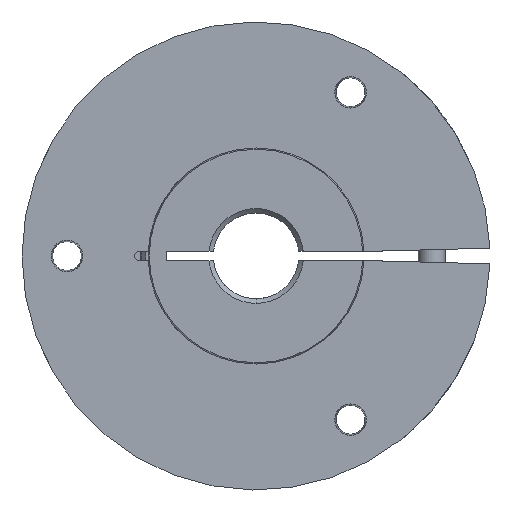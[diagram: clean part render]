
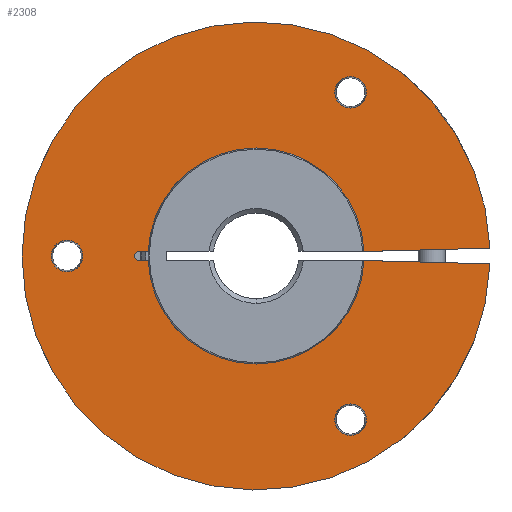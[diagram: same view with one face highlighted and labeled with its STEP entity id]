
A CAD part, front view. The second image highlights one B-rep face of the part: STEP entity #2308.
In plain terms, the highlighted planar face has unit normal (0, -1, 0).
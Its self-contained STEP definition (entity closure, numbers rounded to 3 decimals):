
#39 = CIRCLE ( 'NONE', #2867, 1.748 ) ;
#66 = ORIENTED_EDGE ( 'NONE', *, *, #2490, .T. ) ;
#74 = CIRCLE ( 'NONE', #2934, 1.748 ) ;
#80 = AXIS2_PLACEMENT_3D ( 'NONE', #1555, #1478, #1416 ) ;
#114 = AXIS2_PLACEMENT_3D ( 'NONE', #1853, #1842, #1800 ) ;
#119 = EDGE_LOOP ( 'NONE', ( #1612, #555, #1231, #1965, #66, #1447, #2392, #2577 ) ) ;
#187 = DIRECTION ( 'NONE',  ( 0., 0., -1. ) ) ;
#192 = DIRECTION ( 'NONE',  ( 0., 1., 0. ) ) ;
#195 = CARTESIAN_POINT ( 'NONE',  ( -21., 0., 0. ) ) ;
#206 = CARTESIAN_POINT ( 'NONE',  ( 10.5, 0., 16.438 ) ) ;
#247 = DIRECTION ( 'NONE',  ( 0., 0., -1. ) ) ;
#282 = ORIENTED_EDGE ( 'NONE', *, *, #2686, .T. ) ;
#289 = DIRECTION ( 'NONE',  ( 0., -1., 0. ) ) ;
#316 = AXIS2_PLACEMENT_3D ( 'NONE', #366, #289, #247 ) ;
#346 = DIRECTION ( 'NONE',  ( -1., 0., 0. ) ) ;
#359 = ORIENTED_EDGE ( 'NONE', *, *, #2452, .T. ) ;
#366 = CARTESIAN_POINT ( 'NONE',  ( 12., 0., 0. ) ) ;
#419 = DIRECTION ( 'NONE',  ( 0., 0., -1. ) ) ;
#428 = DIRECTION ( 'NONE',  ( 0., 1., 0. ) ) ;
#443 = CARTESIAN_POINT ( 'NONE',  ( 10.5, 0., 18.187 ) ) ;
#463 = PLANE ( 'NONE',  #316 ) ;
#506 = CARTESIAN_POINT ( 'NONE',  ( -11.99, 0., -0.5 ) ) ;
#555 = ORIENTED_EDGE ( 'NONE', *, *, #2157, .T. ) ;
#570 = EDGE_LOOP ( 'NONE', ( #690, #1968 ) ) ;
#679 = ORIENTED_EDGE ( 'NONE', *, *, #2141, .T. ) ;
#690 = ORIENTED_EDGE ( 'NONE', *, *, #922, .T. ) ;
#700 = VERTEX_POINT ( 'NONE', #1195 ) ;
#724 = AXIS2_PLACEMENT_3D ( 'NONE', #2806, #2794, #2785 ) ;
#725 = EDGE_LOOP ( 'NONE', ( #3039, #679 ) ) ;
#737 = DIRECTION ( 'NONE',  ( 1., 0., 0.026 ) ) ;
#785 = EDGE_LOOP ( 'NONE', ( #359, #282 ) ) ;
#786 = AXIS2_PLACEMENT_3D ( 'NONE', #2146, #2136, #2110 ) ;
#790 = AXIS2_PLACEMENT_3D ( 'NONE', #2192, #2187, #2176 ) ;
#841 = CARTESIAN_POINT ( 'NONE',  ( -13., 0., 0.5 ) ) ;
#842 = CARTESIAN_POINT ( 'NONE',  ( -13., 0., -0.5 ) ) ;
#854 = EDGE_CURVE ( 'NONE', #2780, #2076, #74, .T. ) ;
#903 = DIRECTION ( 'NONE',  ( 0., 0., -1. ) ) ;
#914 = AXIS2_PLACEMENT_3D ( 'NONE', #1423, #1409, #1377 ) ;
#916 = DIRECTION ( 'NONE',  ( 0., 1., 0. ) ) ;
#921 = CARTESIAN_POINT ( 'NONE',  ( 10.5, 0., -18.187 ) ) ;
#922 = EDGE_CURVE ( 'NONE', #2158, #2488, #39, .T. ) ;
#947 = CARTESIAN_POINT ( 'NONE',  ( 11.989, 0., 0.505 ) ) ;
#973 = DIRECTION ( 'NONE',  ( -1., 0., 0. ) ) ;
#976 = VERTEX_POINT ( 'NONE', #2958 ) ;
#995 = DIRECTION ( 'NONE',  ( 0., 1., 0. ) ) ;
#1085 = CARTESIAN_POINT ( 'NONE',  ( 0., 0., 0. ) ) ;
#1132 = AXIS2_PLACEMENT_3D ( 'NONE', #921, #916, #903 ) ;
#1137 = CARTESIAN_POINT ( 'NONE',  ( -13., 0., 0.5 ) ) ;
#1153 = AXIS2_PLACEMENT_3D ( 'NONE', #1085, #995, #973 ) ;
#1195 = CARTESIAN_POINT ( 'NONE',  ( -11.99, 0., 0.5 ) ) ;
#1226 = VERTEX_POINT ( 'NONE', #2644 ) ;
#1231 = ORIENTED_EDGE ( 'NONE', *, *, #2680, .T. ) ;
#1371 = VERTEX_POINT ( 'NONE', #2733 ) ;
#1377 = DIRECTION ( 'NONE',  ( -1., 0., 0. ) ) ;
#1409 = DIRECTION ( 'NONE',  ( 0., 1., 0. ) ) ;
#1416 = DIRECTION ( 'NONE',  ( 0., 0., 1. ) ) ;
#1423 = CARTESIAN_POINT ( 'NONE',  ( 0., 0., 0. ) ) ;
#1447 = ORIENTED_EDGE ( 'NONE', *, *, #2543, .F. ) ;
#1478 = DIRECTION ( 'NONE',  ( 0., 1., 0. ) ) ;
#1540 = DIRECTION ( 'NONE',  ( 1., 0., 0. ) ) ;
#1542 = CARTESIAN_POINT ( 'NONE',  ( 0., 0., -0.5 ) ) ;
#1555 = CARTESIAN_POINT ( 'NONE',  ( -13., 0., 0. ) ) ;
#1612 = ORIENTED_EDGE ( 'NONE', *, *, #2895, .T. ) ;
#1672 = EDGE_CURVE ( 'NONE', #2416, #1835, #3091, .T. ) ;
#1719 = CARTESIAN_POINT ( 'NONE',  ( -21., 0., 1.748 ) ) ;
#1800 = DIRECTION ( 'NONE',  ( 0., 0., -1. ) ) ;
#1826 = CARTESIAN_POINT ( 'NONE',  ( 11.989, 0., 0.505 ) ) ;
#1835 = VERTEX_POINT ( 'NONE', #506 ) ;
#1842 = DIRECTION ( 'NONE',  ( 0., 1., 0. ) ) ;
#1853 = CARTESIAN_POINT ( 'NONE',  ( 10.5, 0., -18.187 ) ) ;
#1874 = CARTESIAN_POINT ( 'NONE',  ( 10.5, 0., -16.438 ) ) ;
#1965 = ORIENTED_EDGE ( 'NONE', *, *, #1672, .F. ) ;
#1968 = ORIENTED_EDGE ( 'NONE', *, *, #2149, .T. ) ;
#1987 = VERTEX_POINT ( 'NONE', #3038 ) ;
#2076 = VERTEX_POINT ( 'NONE', #2631 ) ;
#2102 = CARTESIAN_POINT ( 'NONE',  ( -21., 0., -1.748 ) ) ;
#2110 = DIRECTION ( 'NONE',  ( 0., 0., -1. ) ) ;
#2136 = DIRECTION ( 'NONE',  ( 0., 1., 0. ) ) ;
#2141 = EDGE_CURVE ( 'NONE', #2076, #2780, #2738, .T. ) ;
#2146 = CARTESIAN_POINT ( 'NONE',  ( -21., 0., 0. ) ) ;
#2149 = EDGE_CURVE ( 'NONE', #2488, #2158, #2753, .T. ) ;
#2156 = DIRECTION ( 'NONE',  ( -1., 0., 0.026 ) ) ;
#2157 = EDGE_CURVE ( 'NONE', #1226, #976, #2735, .T. ) ;
#2158 = VERTEX_POINT ( 'NONE', #2102 ) ;
#2170 = CARTESIAN_POINT ( 'NONE',  ( 25.985, 0., -0.871 ) ) ;
#2176 = DIRECTION ( 'NONE',  ( 0., 0., -1. ) ) ;
#2187 = DIRECTION ( 'NONE',  ( 0., 1., 0. ) ) ;
#2192 = CARTESIAN_POINT ( 'NONE',  ( 10.5, 0., 18.187 ) ) ;
#2206 = CIRCLE ( 'NONE', #724, 26. ) ;
#2272 = VERTEX_POINT ( 'NONE', #841 ) ;
#2308 = ADVANCED_FACE ( 'NONE', ( #2626, #2612, #2624, #2620 ), #463, .T. ) ;
#2335 = CIRCLE ( 'NONE', #914, 12. ) ;
#2358 = VECTOR ( 'NONE', #737, 1000. ) ;
#2362 = LINE ( 'NONE', #947, #2358 ) ;
#2367 = CIRCLE ( 'NONE', #1132, 1.748 ) ;
#2381 = CIRCLE ( 'NONE', #1153, 12. ) ;
#2392 = ORIENTED_EDGE ( 'NONE', *, *, #2821, .T. ) ;
#2416 = VERTEX_POINT ( 'NONE', #842 ) ;
#2452 = EDGE_CURVE ( 'NONE', #1371, #3051, #2533, .T. ) ;
#2481 = VECTOR ( 'NONE', #346, 1000. ) ;
#2488 = VERTEX_POINT ( 'NONE', #1719 ) ;
#2489 = LINE ( 'NONE', #1137, #2481 ) ;
#2490 = EDGE_CURVE ( 'NONE', #2416, #2272, #2539, .T. ) ;
#2533 = CIRCLE ( 'NONE', #114, 1.748 ) ;
#2539 = CIRCLE ( 'NONE', #80, 0.5 ) ;
#2543 = EDGE_CURVE ( 'NONE', #700, #2272, #2489, .T. ) ;
#2577 = ORIENTED_EDGE ( 'NONE', *, *, #2747, .T. ) ;
#2612 = FACE_BOUND ( 'NONE', #570, .T. ) ;
#2620 = FACE_BOUND ( 'NONE', #785, .T. ) ;
#2624 = FACE_OUTER_BOUND ( 'NONE', #119, .T. ) ;
#2626 = FACE_BOUND ( 'NONE', #725, .T. ) ;
#2631 = CARTESIAN_POINT ( 'NONE',  ( 10.5, 0., 19.935 ) ) ;
#2644 = CARTESIAN_POINT ( 'NONE',  ( 25.985, 0., -0.871 ) ) ;
#2680 = EDGE_CURVE ( 'NONE', #976, #1835, #2381, .T. ) ;
#2686 = EDGE_CURVE ( 'NONE', #3051, #1371, #2367, .T. ) ;
#2718 = VECTOR ( 'NONE', #2156, 1000. ) ;
#2733 = CARTESIAN_POINT ( 'NONE',  ( 10.5, 0., -19.935 ) ) ;
#2735 = LINE ( 'NONE', #2170, #2718 ) ;
#2738 = CIRCLE ( 'NONE', #790, 1.748 ) ;
#2747 = EDGE_CURVE ( 'NONE', #2985, #1987, #2362, .T. ) ;
#2753 = CIRCLE ( 'NONE', #786, 1.748 ) ;
#2780 = VERTEX_POINT ( 'NONE', #206 ) ;
#2785 = DIRECTION ( 'NONE',  ( 1., 0., 0. ) ) ;
#2794 = DIRECTION ( 'NONE',  ( 0., -1., 0. ) ) ;
#2806 = CARTESIAN_POINT ( 'NONE',  ( 0., 0., 0. ) ) ;
#2821 = EDGE_CURVE ( 'NONE', #700, #2985, #2335, .T. ) ;
#2867 = AXIS2_PLACEMENT_3D ( 'NONE', #195, #192, #187 ) ;
#2895 = EDGE_CURVE ( 'NONE', #1987, #1226, #2206, .T. ) ;
#2934 = AXIS2_PLACEMENT_3D ( 'NONE', #443, #428, #419 ) ;
#2958 = CARTESIAN_POINT ( 'NONE',  ( 11.989, 0., -0.505 ) ) ;
#2985 = VERTEX_POINT ( 'NONE', #1826 ) ;
#3038 = CARTESIAN_POINT ( 'NONE',  ( 25.985, 0., 0.871 ) ) ;
#3039 = ORIENTED_EDGE ( 'NONE', *, *, #854, .T. ) ;
#3051 = VERTEX_POINT ( 'NONE', #1874 ) ;
#3091 = LINE ( 'NONE', #1542, #3114 ) ;
#3114 = VECTOR ( 'NONE', #1540, 1000. ) ;
